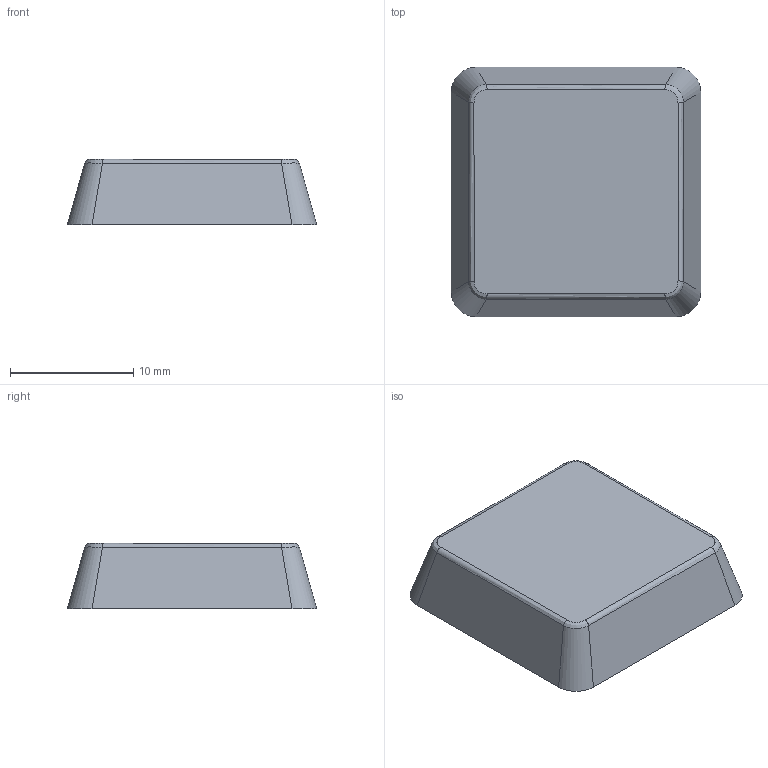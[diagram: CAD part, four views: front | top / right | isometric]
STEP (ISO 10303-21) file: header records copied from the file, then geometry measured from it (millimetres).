
FILE_DESCRIPTION(('Open CASCADE Model'),'2;1');
FILE_NAME('Open CASCADE Shape Model','2026-10-06T21:24:29',('Author'),( 'Open CASCADE'),'Open CASCADE STEP processor 7.9','Open CASCADE 7.9' ,'Unknown');
FILE_SCHEMA(('AUTOMOTIVE_DESIGN { 1 0 10303 214 1 1 1 1 }'));
Length unit declared in the file: millimetre
Products named in the file (1): Open CASCADE STEP translator 7.9 3
Bounding box: 20.2 x 20.2 x 5.3 mm (x, y, z)
Volume: 684.6 mm3; surface area: 1425.9 mm2
Topology: 1 solids, 1 shells, 70 faces, 187 edges, 122 vertices
Faces by surface type: bspline 52, plane 17, cylinder 1
Full cylindrical faces by diameter (mm): 5.3 x1
Entity records: 5458 total; most frequent: CARTESIAN_POINT 2387, ORIENTED_EDGE 374, PCURVE 374, DEFINITIONAL_REPRESENTATION 374, DIRECTION 326, LINE 273, VECTOR 273, B_SPLINE_CURVE_WITH_KNOTS 252
